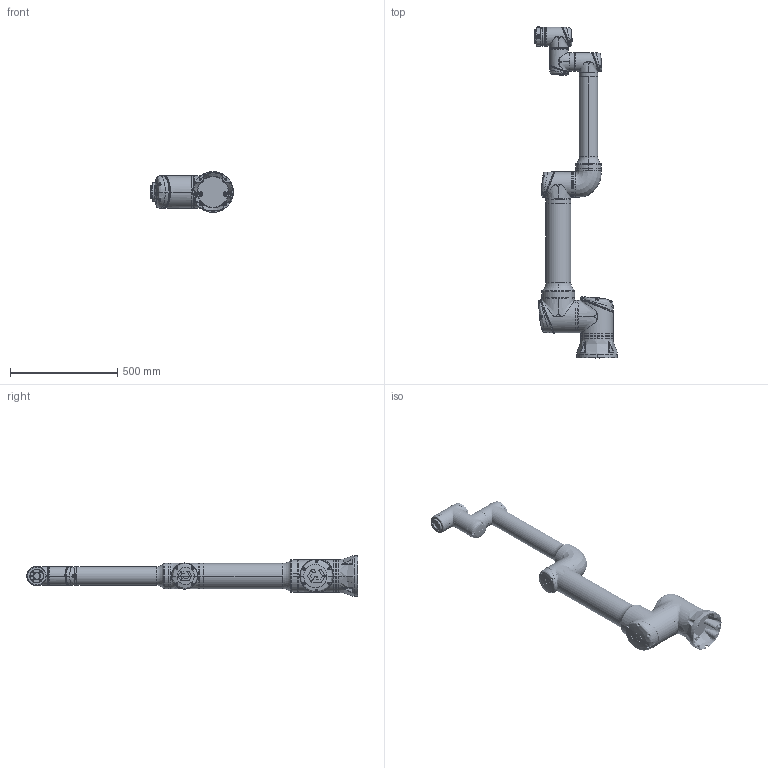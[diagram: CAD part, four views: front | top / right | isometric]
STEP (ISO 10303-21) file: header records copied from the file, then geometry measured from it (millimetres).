
FILE_DESCRIPTION (( 'STEP AP203' ), '1' );
FILE_NAME ('CS_掛极CS612_V1.2.STEP', '2025-03-27T06:09:37', ( '' ), ( '' ), 'SwSTEP 2.0', 'SolidWorks 2017', '' );
FILE_SCHEMA (( 'CONFIG_CONTROL_DESIGN' ));
Length unit declared in the file: millimetre
Products named in the file (8): CS612-J6; CS612-J1; CS612-Flange; CS_掛极CS612_V1.2; CS612-J2_Link1_J3; CS612-J5; CS612-Base; CS612-Link2A_Link2B_J4
Assembly tree (7 placements, depth 2):
  CS_掛极CS612_V1.2
    CS612-Base
    CS612-J1
    CS612-J2_Link1_J3
    CS612-Link2A_Link2B_J4
    CS612-J5
    CS612-J6
    CS612-Flange
Bounding box: 385.68 x 1546.7 x 189.7 mm (x, y, z)
Volume: 22039245.6 mm3; surface area: 1427135.1 mm2
Topology: 80 solids, 121 shells, 5734 faces, 13659 edges, 8195 vertices
Faces by surface type: bspline 2075, plane 1500, cylinder 1187, cone 421, torus 338, sphere 213
Entity records: 462269 total; most frequent: CARTESIAN_POINT 346993, ORIENTED_EDGE 26762, DIRECTION 19905, EDGE_CURVE 13383, AXIS2_PLACEMENT_3D 8403, VERTEX_POINT 8149, EDGE_LOOP 6109, ADVANCED_FACE 5734
